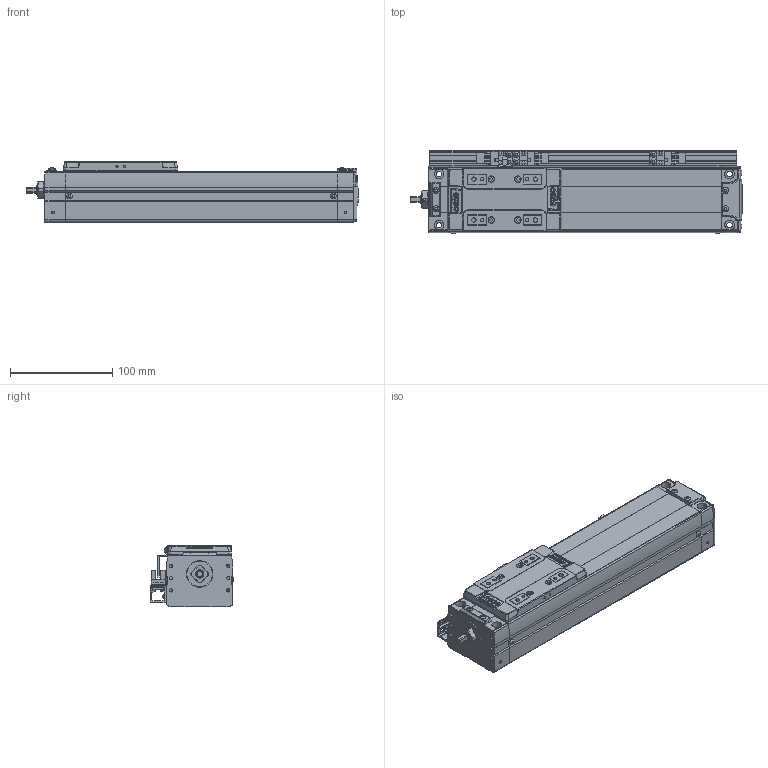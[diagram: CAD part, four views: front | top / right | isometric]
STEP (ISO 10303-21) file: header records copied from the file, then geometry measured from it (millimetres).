
FILE_DESCRIPTION(('STEP AP214'),'1');
FILE_NAME('Z:/Web/3D/SAN65/STP/SAN65ㅁㅁ-150+3SL.stp','2012-06-14T03:59:42',(' '),(' '),'Spatial InterOp 3D',' ',' ');
FILE_SCHEMA(('automotive_design'));
Length unit declared in the file: metre
Products named in the file (51): SAN65__-150; BODY-SAN65; REAR-SAN65; RRCV-SAN65; 스크루 : Round - M3.0 x 6.0; FRONT-SAN65; SHAFT-SAN65; RN8 x 0.75; SSFX-SAN65; SLIDE-SAN65; SLCV-SAN65; 스크루 : Countersunk - M3.0 x 6.0; ____196; 3SL; SRL-16x17-450L; - OT; EE-SX674; SBK-SX674-352; HOME; + OT; DOG; SDG-SAN65; 스크루 : Round - M3.0 x 5.0
Assembly tree (50 placements, depth 4):
  ____196
    SAN65__-150
      BODY-SAN65
      REAR-SAN65
        REAR-SAN65
        RRCV-SAN65
        스크루 : Round - M3.0 x 6.0
        스크루 : Round - M3.0 x 6.0
        스크루 : Round - M3.0 x 6.0
        스크루 : Round - M3.0 x 6.0
        스크루 : Round - M3.0 x 6.0
        스크루 : Round - M3.0 x 6.0
      FRONT-SAN65
        FRONT-SAN65
        SHAFT-SAN65
        RN8 x 0.75
        SSFX-SAN65
        스크루 : Round - M3.0 x 6.0
        스크루 : Round - M3.0 x 6.0
        스크루 : Round - M3.0 x 6.0
        스크루 : Round - M3.0 x 6.0
      SLIDE-SAN65
        SLIDE-SAN65
        SLCV-SAN65
        스크루 : Countersunk - M3.0 x 6.0
        스크루 : Countersunk - M3.0 x 6.0
        스크루 : Countersunk - M3.0 x 6.0
        스크루 : Countersunk - M3.0 x 6.0
    3SL
      SRL-16x17-450L
      스크루 : Round - M3.0 x 6.0
      스크루 : Round - M3.0 x 6.0
      - OT
        EE-SX674
        SBK-SX674-352
        스크루 : Round - M3.0 x 6.0
        스크루 : Round - M3.0 x 6.0
      HOME
        EE-SX674
        SBK-SX674-352
        스크루 : Round - M3.0 x 6.0
        스크루 : Round - M3.0 x 6.0
      + OT
        EE-SX674
        SBK-SX674-352
        스크루 : Round - M3.0 x 6.0
        스크루 : Round - M3.0 x 6.0
      DOG
        SDG-SAN65
        스크루 : Round - M3.0 x 5.0
        스크루 : Round - M3.0 x 5.0
Bounding box: 324.65 x 82.06 x 60 mm (x, y, z)
Volume: 1037235.2 mm3; surface area: 188504 mm2
Topology: 41 solids, 41 shells, 1855 faces, 4769 edges, 3116 vertices
Faces by surface type: plane 1243, cylinder 457, cone 79, sphere 32, bspline 26, torus 15, extrusion 3
Full cylindrical faces by diameter (mm): 0.571 x2, 0.706 x1, 1.727 x2, 2.132 x1, 2.2 x4, 2.5 x15, 2.528 x4, 3 x6, 3.121 x2, 3.3 x4, 3.4 x4, 3.5 x14, 4.2 x18, 4.849 x4, 5 x3, 5.5 x4, 5.987 x2, 6 x6, 6.5 x2, 7 x1, 8 x4, 9.5 x4, 13 x1, 15 x1, 19 x1
Entity records: 75099 total; most frequent: CARTESIAN_POINT 14232, DIRECTION 9355, ORIENTED_EDGE 8968, EDGE_CURVE 4484, VECTOR 3205, LINE 3202, AXIS2_PLACEMENT_3D 3075, VERTEX_POINT 3056
